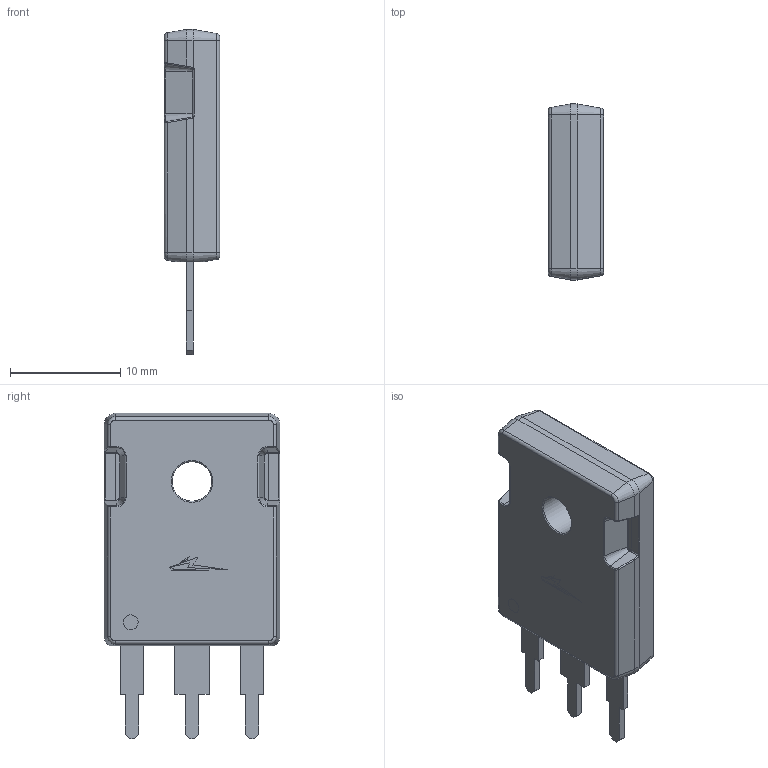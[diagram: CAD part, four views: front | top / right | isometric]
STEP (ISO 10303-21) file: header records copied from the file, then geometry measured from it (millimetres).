
FILE_DESCRIPTION(/* description */ (''),/* implementation_level */ '2;1');
FILE_NAME(/* name */ 'C:\Users\k\Desktop\C3M0045065D.stp',/* time_stamp */ '2022-01-08T11:28:21+02:00',/* author */ ('k'),/* organization */ (''),/* preprocessor_version */ 'ST-DEVELOPER v15.6',/* originating_system */ 'Autodesk Inventor 2015',/* authorisation */ '');
FILE_SCHEMA (('AUTOMOTIVE_DESIGN { 1 0 10303 214 3 1 1 }'));
Length unit declared in the file: millimetre
Products named in the file (6): 1; 12; Wolf Speed Logo; 111; 111_MIR
Bounding box: 5.02 x 15.94 x 29.5 mm (x, y, z)
Volume: 1573.6 mm3; surface area: 1566.5 mm2
Topology: 11 solids, 11 shells, 199 faces, 469 edges, 292 vertices
Faces by surface type: plane 108, cylinder 39, torus 20, bspline 18, cone 14
Full cylindrical faces by diameter (mm): 1.344 x1, 3.58 x1, 7.18 x1
Entity records: 6081 total; most frequent: CARTESIAN_POINT 1388, DIRECTION 944, ORIENTED_EDGE 928, EDGE_CURVE 464, AXIS2_PLACEMENT_3D 320, LINE 304, VECTOR 304, VERTEX_POINT 292
